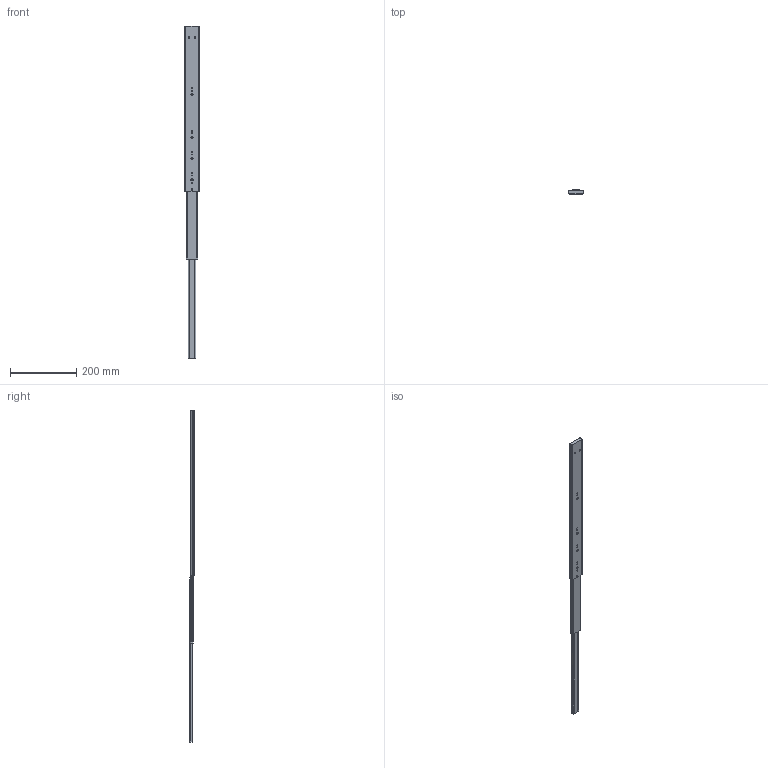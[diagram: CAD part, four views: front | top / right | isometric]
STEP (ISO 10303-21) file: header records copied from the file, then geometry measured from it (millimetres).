
FILE_DESCRIPTION (( 'STEP AP203' ), '1' );
FILE_NAME ('4587120H(拉）.STEP', '2020-02-13T09:05:40', ( 'ZZG' ), ( 'Microsoft' ), 'SwSTEP 2.0', 'SolidWorks 2012', '' );
FILE_SCHEMA (( 'CONFIG_CONTROL_DESIGN' ));
Length unit declared in the file: millimetre
Products named in the file (1): 4587120H(嶺ㄘ
Bounding box: 45.55 x 12.7 x 998.7 mm (x, y, z)
Volume: 374502.5 mm3; surface area: 89299.7 mm2
Topology: 1 solids, 1 shells, 217 faces, 580 edges, 386 vertices
Faces by surface type: cylinder 112, plane 95, cone 6, bspline 4
Entity records: 7078 total; most frequent: CARTESIAN_POINT 1373, DIRECTION 1230, ORIENTED_EDGE 1160, EDGE_CURVE 580, AXIS2_PLACEMENT_3D 452, VERTEX_POINT 386, LINE 326, VECTOR 326
